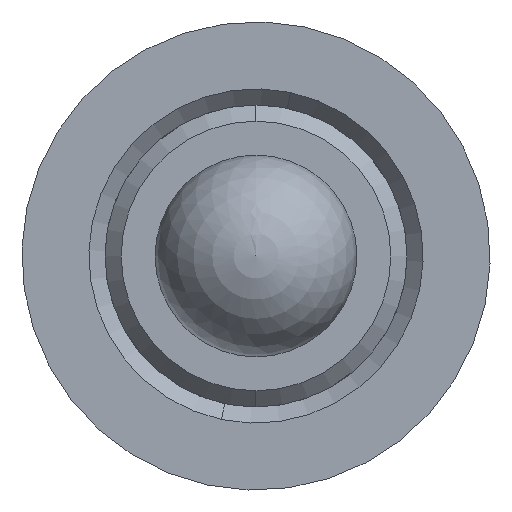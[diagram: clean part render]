
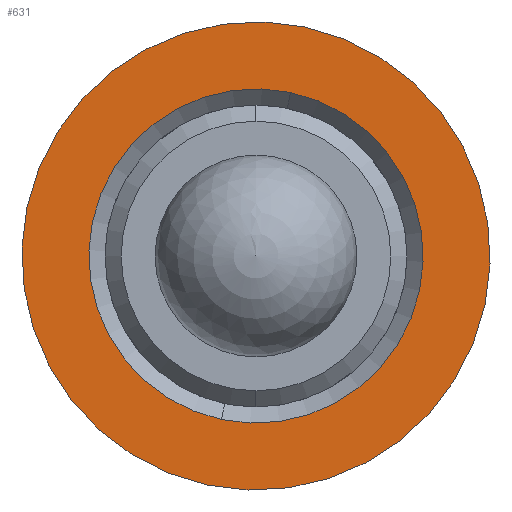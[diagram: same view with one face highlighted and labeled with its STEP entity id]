
A CAD part, left-side view. The second image highlights one B-rep face of the part: STEP entity #631.
In plain terms, the highlighted planar face has unit normal (-1, 0, 0).
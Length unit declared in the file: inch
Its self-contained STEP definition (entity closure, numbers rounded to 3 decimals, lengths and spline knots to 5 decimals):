
#26 = FACE_BOUND ( 'NONE', #866, .T. ) ;
#75 = DIRECTION ( 'NONE',  ( 0., 0.207, -0.978 ) ) ;
#78 = DIRECTION ( 'NONE',  ( 1., 0., 0. ) ) ;
#82 = CARTESIAN_POINT ( 'NONE',  ( 0.01265, 0.42348, 0.5955 ) ) ;
#98 = AXIS2_PLACEMENT_3D ( 'NONE', #82, #78, #75 ) ;
#101 = EDGE_CURVE ( 'NONE', #710, #1058, #809, .T. ) ;
#105 = DIRECTION ( 'NONE',  ( 0., 0.207, -0.978 ) ) ;
#110 = DIRECTION ( 'NONE',  ( 1., 0., 0. ) ) ;
#113 = CARTESIAN_POINT ( 'NONE',  ( 0.01265, 0.42348, 0.5955 ) ) ;
#161 = PLANE ( 'NONE',  #189 ) ;
#189 = AXIS2_PLACEMENT_3D ( 'NONE', #113, #110, #105 ) ;
#246 = VERTEX_POINT ( 'NONE', #944 ) ;
#289 = CARTESIAN_POINT ( 'NONE',  ( 0.01265, 0.40205, 0.69676 ) ) ;
#292 = AXIS2_PLACEMENT_3D ( 'NONE', #1135, #1128, #642 ) ;
#590 = VERTEX_POINT ( 'NONE', #289 ) ;
#615 = CIRCLE ( 'NONE', #98, 0.1035 ) ;
#631 = ADVANCED_FACE ( 'NONE', ( #26, #687 ), #161, .F. ) ;
#642 = DIRECTION ( 'NONE',  ( 0., -0.207, 0.978 ) ) ;
#648 = DIRECTION ( 'NONE',  ( 0., 0.207, -0.978 ) ) ;
#656 = EDGE_CURVE ( 'NONE', #590, #246, #615, .T. ) ;
#661 = DIRECTION ( 'NONE',  ( 1., 0., 0. ) ) ;
#677 = CARTESIAN_POINT ( 'NONE',  ( 0.01265, 0.42348, 0.5955 ) ) ;
#687 = FACE_OUTER_BOUND ( 'NONE', #1370, .T. ) ;
#710 = VERTEX_POINT ( 'NONE', #762 ) ;
#732 = DIRECTION ( 'NONE',  ( 0., -0.207, 0.978 ) ) ;
#736 = DIRECTION ( 'NONE',  ( -1., 0., 0. ) ) ;
#740 = CARTESIAN_POINT ( 'NONE',  ( 0.01265, 0.42348, 0.5955 ) ) ;
#762 = CARTESIAN_POINT ( 'NONE',  ( 0.01265, 0.39345, 0.73736 ) ) ;
#809 = CIRCLE ( 'NONE', #292, 0.145 ) ;
#866 = EDGE_LOOP ( 'NONE', ( #907, #1247 ) ) ;
#907 = ORIENTED_EDGE ( 'NONE', *, *, #656, .T. ) ;
#944 = CARTESIAN_POINT ( 'NONE',  ( 0.01265, 0.44492, 0.49425 ) ) ;
#986 = ORIENTED_EDGE ( 'NONE', *, *, #101, .T. ) ;
#1032 = CIRCLE ( 'NONE', #1182, 0.145 ) ;
#1058 = VERTEX_POINT ( 'NONE', #1321 ) ;
#1061 = ORIENTED_EDGE ( 'NONE', *, *, #1416, .T. ) ;
#1072 = CIRCLE ( 'NONE', #1275, 0.1035 ) ;
#1128 = DIRECTION ( 'NONE',  ( -1., 0., 0. ) ) ;
#1135 = CARTESIAN_POINT ( 'NONE',  ( 0.01265, 0.42348, 0.5955 ) ) ;
#1182 = AXIS2_PLACEMENT_3D ( 'NONE', #740, #736, #732 ) ;
#1247 = ORIENTED_EDGE ( 'NONE', *, *, #1459, .T. ) ;
#1275 = AXIS2_PLACEMENT_3D ( 'NONE', #677, #661, #648 ) ;
#1321 = CARTESIAN_POINT ( 'NONE',  ( 0.01265, 0.45351, 0.45365 ) ) ;
#1370 = EDGE_LOOP ( 'NONE', ( #986, #1061 ) ) ;
#1416 = EDGE_CURVE ( 'NONE', #1058, #710, #1032, .T. ) ;
#1459 = EDGE_CURVE ( 'NONE', #246, #590, #1072, .T. ) ;
